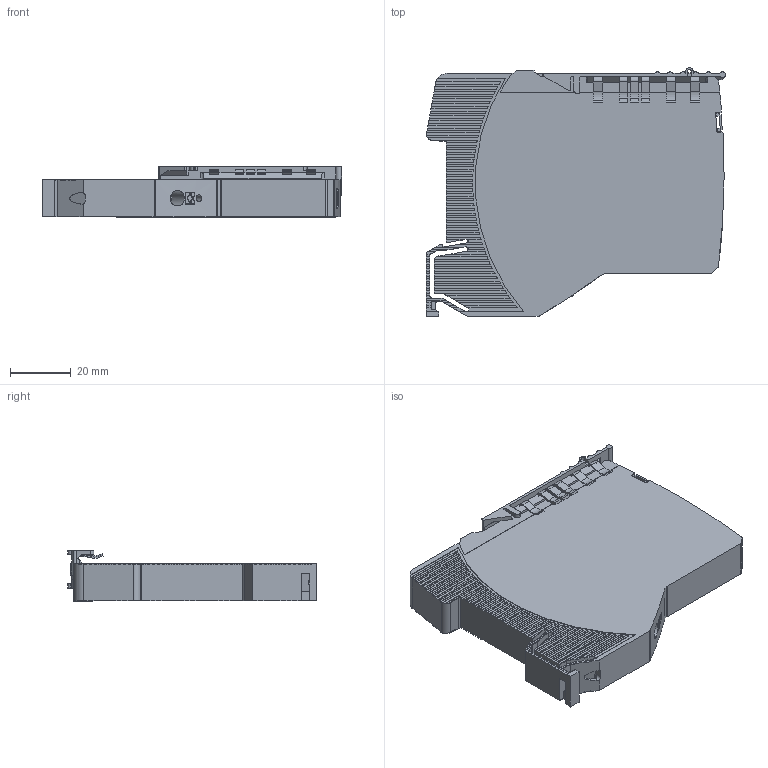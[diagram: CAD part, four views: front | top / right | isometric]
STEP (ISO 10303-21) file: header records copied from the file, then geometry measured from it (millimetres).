
FILE_DESCRIPTION( ( 'STEP AP203' ), ' ' );
FILE_NAME( 'p:/temp/worker_6912/5028_5948/app_48_02017050811371567241176192d056f_000000_00_00_000000/format_3/DF2208.stp', '2017-05-08T09:37:22', ( '' ), ( '' ), ' ', 'PARTsolutions', ' ' );
FILE_SCHEMA( ( 'CONFIG_CONTROL_DESIGN' ) );
Length unit declared in the file: millimetre
Products named in the file (3): DF2208; _DF1208_p1; _DF2212_p2
Assembly tree (2 placements, depth 2):
  DF2208
    _DF1208_p1
    _DF2212_p2
Bounding box: 98.5 x 81.9 x 16.65 mm (x, y, z)
Volume: 80168.7 mm3; surface area: 25397.5 mm2
Topology: 2 solids, 2 shells, 1038 faces, 3067 edges, 2042 vertices
Faces by surface type: plane 789, cylinder 238, cone 8, torus 2, sphere 1
Full cylindrical faces by diameter (mm): 1.3 x1, 2.3 x1, 4 x2
Entity records: 34649 total; most frequent: CARTESIAN_POINT 6331, ORIENTED_EDGE 6112, DIRECTION 5653, EDGE_CURVE 3056, LINE 2499, VECTOR 2499, VERTEX_POINT 2039, AXIS2_PLACEMENT_3D 1577
